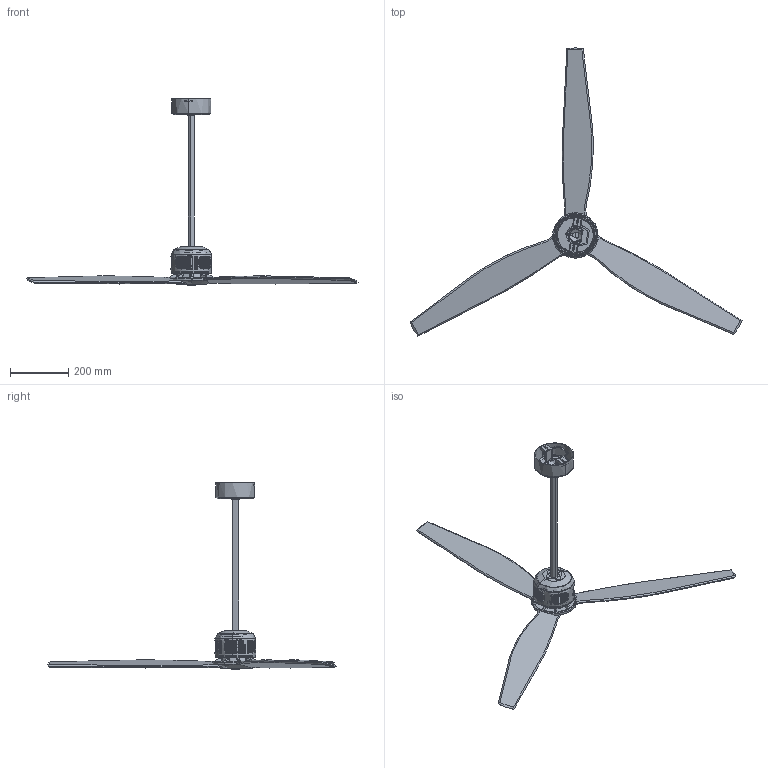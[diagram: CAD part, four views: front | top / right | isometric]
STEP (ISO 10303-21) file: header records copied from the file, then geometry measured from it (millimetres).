
FILE_DESCRIPTION(/* description */ (''),/* implementation_level */ '2;1');
FILE_NAME(/* name */ 'copperfan_3d',/* time_stamp */ '2026-07-01T12:14:44+02:00',/* author */ (''),/* organization */ (''),/* preprocessor_version */ 'ST-DEVELOPER v19.2',/* originating_system */ 'Rhino 8.30',/* authorisation */ '');
FILE_SCHEMA (('CONFIG_CONTROL_DESIGN'));
Length unit declared in the file: millimetre
Products named in the file (14): Document; Product; 33451_ 33451WP_ - FAN-464261-_3D_; Bloque 01; Bloque 02; Bloque 03; Bloque 04; Bloque 05; Bloque 06; Bloque 07; Bloque 08; Bloque 09; Bloque 10; Bloque 11
Bounding box: 1139.9 x 990.04 x 640.8 mm (x, y, z)
Surface area: 725063.4 mm2 (no closed solid volume)
Topology: 0 solids, 696 shells, 747 faces, 4345 edges, 4292 vertices
Faces by surface type: bspline 384, cylinder 183, plane 180
Entity records: 103543 total; most frequent: CARTESIAN_POINT 72411, ORIENTED_EDGE 4394, EDGE_CURVE 4343, VERTEX_POINT 4292, B_SPLINE_CURVE_WITH_KNOTS 3570, DIRECTION 1899, AXIS2_PLACEMENT_3D 1131, EDGE_LOOP 812
